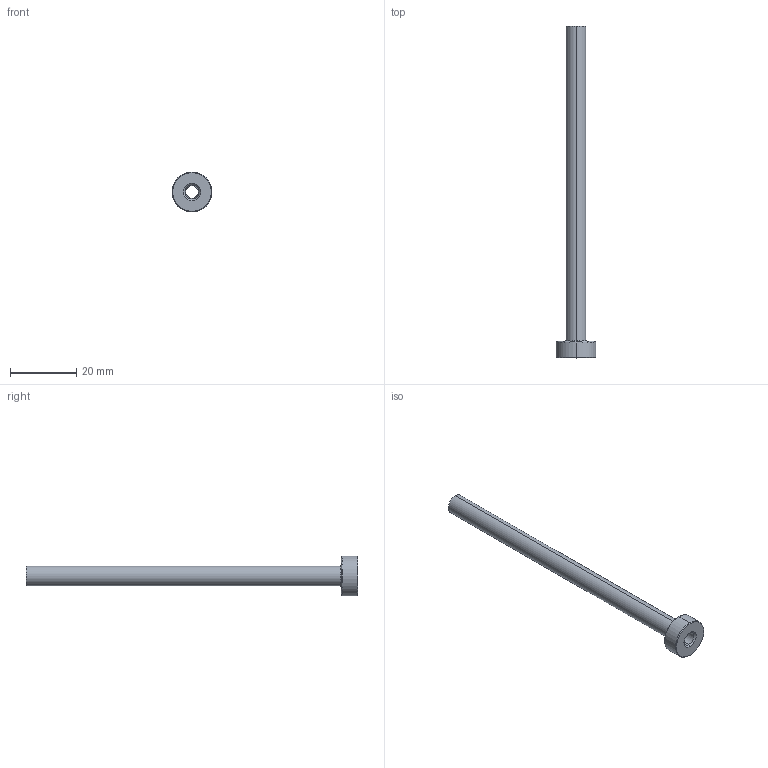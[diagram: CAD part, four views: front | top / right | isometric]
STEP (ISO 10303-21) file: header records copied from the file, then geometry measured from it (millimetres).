
FILE_DESCRIPTION (( 'STEP AP203' ), '1' );
FILE_NAME ('ESD037L100.step', '2022-02-05T00:51:06', ( 'Microsoft Corporation' ), ( 'MS' ), 'SwSTEP 2.0', 'SolidWorks 2019', '' );
FILE_SCHEMA (( 'CONFIG_CONTROL_DESIGN' ));
Length unit declared in the file: millimetre
Products named in the file (1): ESD037L100
Bounding box: 12 x 100 x 12 mm (x, y, z)
Volume: 2021.8 mm3; surface area: 3405.3 mm2
Topology: 1 solids, 1 shells, 21 faces, 42 edges, 24 vertices
Faces by surface type: cone 8, cylinder 8, plane 3, torus 2
Entity records: 627 total; most frequent: DIRECTION 112, CARTESIAN_POINT 88, ORIENTED_EDGE 84, AXIS2_PLACEMENT_3D 48, EDGE_CURVE 42, CIRCLE 26, EDGE_LOOP 24, VERTEX_POINT 24
